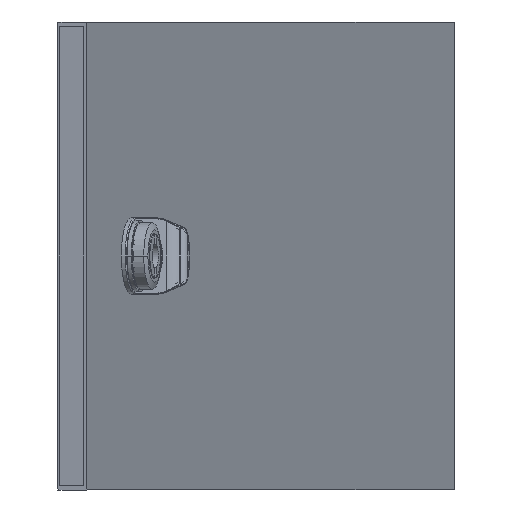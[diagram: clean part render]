
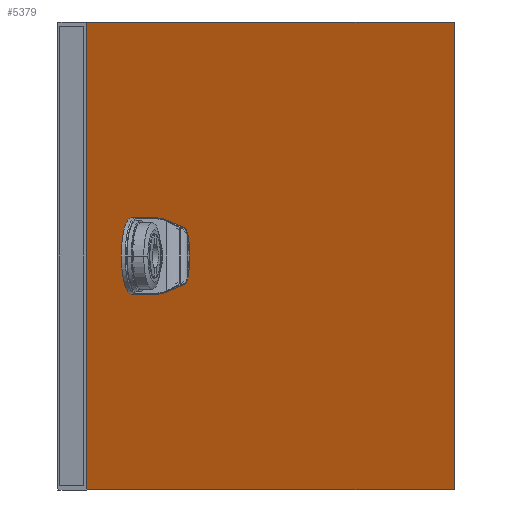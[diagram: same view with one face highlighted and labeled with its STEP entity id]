
A CAD part, front view. The second image highlights one B-rep face of the part: STEP entity #5379.
In plain terms, the highlighted planar face has unit normal (0.966, -0.259, 0).
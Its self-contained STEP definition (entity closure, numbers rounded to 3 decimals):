
#112 = VERTEX_POINT ( 'NONE', #14574 ) ;
#150 = EDGE_CURVE ( 'NONE', #4712, #3056, #266, .T. ) ;
#266 = LINE ( 'NONE', #2447, #12394 ) ;
#370 = DIRECTION ( 'NONE',  ( 0.259, 0.966, 0. ) ) ;
#566 = DIRECTION ( 'NONE',  ( 0., 0., -1. ) ) ;
#603 = EDGE_CURVE ( 'NONE', #5933, #1547, #1140, .T. ) ;
#709 = AXIS2_PLACEMENT_3D ( 'NONE', #12910, #1250, #13973 ) ;
#935 = AXIS2_PLACEMENT_3D ( 'NONE', #11305, #2253, #4597 ) ;
#975 = EDGE_CURVE ( 'NONE', #2585, #4712, #3384, .T. ) ;
#982 = CARTESIAN_POINT ( 'NONE',  ( -141.504, -521.983, 9. ) ) ;
#997 = ORIENTED_EDGE ( 'NONE', *, *, #2766, .T. ) ;
#1077 = CARTESIAN_POINT ( 'NONE',  ( -163.225, -603.127, 25. ) ) ;
#1140 = LINE ( 'NONE', #3481, #6134 ) ;
#1223 = CARTESIAN_POINT ( 'NONE',  ( -141.504, -521.983, 41. ) ) ;
#1250 = DIRECTION ( 'NONE',  ( -0.966, 0.259, 0. ) ) ;
#1505 = VERTEX_POINT ( 'NONE', #8541 ) ;
#1531 = EDGE_CURVE ( 'NONE', #8182, #6910, #3814, .T. ) ;
#1547 = VERTEX_POINT ( 'NONE', #1623 ) ;
#1623 = CARTESIAN_POINT ( 'NONE',  ( -144.607, -533.575, 9. ) ) ;
#2000 = EDGE_CURVE ( 'NONE', #3436, #2585, #8828, .T. ) ;
#2253 = DIRECTION ( 'NONE',  ( 0.966, -0.259, 0. ) ) ;
#2333 = LINE ( 'NONE', #9332, #3875 ) ;
#2447 = CARTESIAN_POINT ( 'NONE',  ( -9.372, -28.362, 25. ) ) ;
#2492 = DIRECTION ( 'NONE',  ( -0.966, 0.259, 0. ) ) ;
#2585 = VERTEX_POINT ( 'NONE', #13375 ) ;
#2766 = EDGE_CURVE ( 'NONE', #9929, #5933, #5991, .T. ) ;
#2821 = ORIENTED_EDGE ( 'NONE', *, *, #975, .T. ) ;
#2859 = CIRCLE ( 'NONE', #9335, 16. ) ;
#2950 = ORIENTED_EDGE ( 'NONE', *, *, #2000, .T. ) ;
#3056 = VERTEX_POINT ( 'NONE', #4476 ) ;
#3236 = ORIENTED_EDGE ( 'NONE', *, *, #7031, .T. ) ;
#3384 = LINE ( 'NONE', #6616, #3981 ) ;
#3418 = CARTESIAN_POINT ( 'NONE',  ( -144.607, -533.575, 41. ) ) ;
#3436 = VERTEX_POINT ( 'NONE', #5078 ) ;
#3481 = CARTESIAN_POINT ( 'NONE',  ( -148.744, -549.031, 9. ) ) ;
#3490 = CARTESIAN_POINT ( 'NONE',  ( -140.211, -517.153, 41. ) ) ;
#3495 = DIRECTION ( 'NONE',  ( 0., 0., 1. ) ) ;
#3617 = EDGE_CURVE ( 'NONE', #3056, #3436, #2333, .T. ) ;
#3656 = DIRECTION ( 'NONE',  ( 0., 0., -1. ) ) ;
#3761 = CARTESIAN_POINT ( 'NONE',  ( -148.744, -549.031, 41. ) ) ;
#3814 = CIRCLE ( 'NONE', #13432, 16. ) ;
#3875 = VECTOR ( 'NONE', #12591, 1000. ) ;
#3981 = VECTOR ( 'NONE', #13760, 1000. ) ;
#4102 = FACE_BOUND ( 'NONE', #9647, .T. ) ;
#4411 = ORIENTED_EDGE ( 'NONE', *, *, #12123, .T. ) ;
#4476 = CARTESIAN_POINT ( 'NONE',  ( -9.372, -28.362, 123. ) ) ;
#4597 = DIRECTION ( 'NONE',  ( 0., 0., 1. ) ) ;
#4604 = ORIENTED_EDGE ( 'NONE', *, *, #150, .T. ) ;
#4712 = VERTEX_POINT ( 'NONE', #11173 ) ;
#4809 = VECTOR ( 'NONE', #3656, 1000. ) ;
#5078 = CARTESIAN_POINT ( 'NONE',  ( -163.225, -603.127, 123. ) ) ;
#5226 = ORIENTED_EDGE ( 'NONE', *, *, #6770, .T. ) ;
#5379 = ADVANCED_FACE ( 'NONE', ( #10027, #4102 ), #6638, .T. ) ;
#5776 = VECTOR ( 'NONE', #370, 1000. ) ;
#5933 = VERTEX_POINT ( 'NONE', #982 ) ;
#5939 = EDGE_CURVE ( 'NONE', #9929, #1505, #8624, .T. ) ;
#5991 = CIRCLE ( 'NONE', #709, 16. ) ;
#6134 = VECTOR ( 'NONE', #11619, 1000. ) ;
#6616 = CARTESIAN_POINT ( 'NONE',  ( -86.298, -315.744, -73. ) ) ;
#6638 = PLANE ( 'NONE',  #6689 ) ;
#6689 = AXIS2_PLACEMENT_3D ( 'NONE', #12441, #12225, #11240 ) ;
#6719 = ORIENTED_EDGE ( 'NONE', *, *, #603, .T. ) ;
#6770 = EDGE_CURVE ( 'NONE', #112, #1505, #13802, .T. ) ;
#6910 = VERTEX_POINT ( 'NONE', #12797 ) ;
#7031 = EDGE_CURVE ( 'NONE', #7971, #8182, #14067, .T. ) ;
#7077 = DIRECTION ( 'NONE',  ( 0., 0., -1. ) ) ;
#7268 = ORIENTED_EDGE ( 'NONE', *, *, #5939, .F. ) ;
#7849 = CARTESIAN_POINT ( 'NONE',  ( -140.401, -517.862, 9.579 ) ) ;
#7971 = VERTEX_POINT ( 'NONE', #3418 ) ;
#8038 = ORIENTED_EDGE ( 'NONE', *, *, #12112, .F. ) ;
#8182 = VERTEX_POINT ( 'NONE', #1223 ) ;
#8447 = CARTESIAN_POINT ( 'NONE',  ( -140.47, -518.119, 39.457 ) ) ;
#8541 = CARTESIAN_POINT ( 'NONE',  ( -140.211, -517.153, 10.543 ) ) ;
#8624 = CIRCLE ( 'NONE', #935, 1. ) ;
#8714 = EDGE_LOOP ( 'NONE', ( #4604, #10740, #2950, #2821 ) ) ;
#8828 = LINE ( 'NONE', #1077, #14875 ) ;
#9332 = CARTESIAN_POINT ( 'NONE',  ( -86.298, -315.744, 123. ) ) ;
#9335 = AXIS2_PLACEMENT_3D ( 'NONE', #13851, #2492, #7077 ) ;
#9566 = DIRECTION ( 'NONE',  ( 0.966, -0.259, 0. ) ) ;
#9647 = EDGE_LOOP ( 'NONE', ( #5226, #7268, #997, #6719, #4411, #3236, #9997, #8038 ) ) ;
#9929 = VERTEX_POINT ( 'NONE', #7849 ) ;
#9997 = ORIENTED_EDGE ( 'NONE', *, *, #1531, .T. ) ;
#10027 = FACE_OUTER_BOUND ( 'NONE', #8714, .T. ) ;
#10740 = ORIENTED_EDGE ( 'NONE', *, *, #3617, .T. ) ;
#10894 = DIRECTION ( 'NONE',  ( -0.966, 0.259, 0. ) ) ;
#11173 = CARTESIAN_POINT ( 'NONE',  ( -9.372, -28.362, -73. ) ) ;
#11240 = DIRECTION ( 'NONE',  ( 0., 0., -1. ) ) ;
#11305 = CARTESIAN_POINT ( 'NONE',  ( -140.47, -518.119, 10.543 ) ) ;
#11619 = DIRECTION ( 'NONE',  ( -0.259, -0.966, 0. ) ) ;
#12021 = CARTESIAN_POINT ( 'NONE',  ( -141.504, -521.983, 25. ) ) ;
#12112 = EDGE_CURVE ( 'NONE', #112, #6910, #12954, .T. ) ;
#12123 = EDGE_CURVE ( 'NONE', #1547, #7971, #2859, .T. ) ;
#12225 = DIRECTION ( 'NONE',  ( 0.966, -0.259, 0. ) ) ;
#12323 = DIRECTION ( 'NONE',  ( 0., 0., -1. ) ) ;
#12394 = VECTOR ( 'NONE', #3495, 1000. ) ;
#12441 = CARTESIAN_POINT ( 'NONE',  ( -103.494, -379.983, 904. ) ) ;
#12591 = DIRECTION ( 'NONE',  ( -0.259, -0.966, 0. ) ) ;
#12797 = CARTESIAN_POINT ( 'NONE',  ( -140.401, -517.862, 40.42 ) ) ;
#12809 = DIRECTION ( 'NONE',  ( 0., 0., -1. ) ) ;
#12910 = CARTESIAN_POINT ( 'NONE',  ( -141.504, -521.983, 25. ) ) ;
#12954 = CIRCLE ( 'NONE', #13428, 1. ) ;
#13375 = CARTESIAN_POINT ( 'NONE',  ( -163.225, -603.127, -73. ) ) ;
#13428 = AXIS2_PLACEMENT_3D ( 'NONE', #8447, #9566, #12809 ) ;
#13432 = AXIS2_PLACEMENT_3D ( 'NONE', #12021, #10894, #566 ) ;
#13760 = DIRECTION ( 'NONE',  ( 0.259, 0.966, 0. ) ) ;
#13802 = LINE ( 'NONE', #3490, #4809 ) ;
#13851 = CARTESIAN_POINT ( 'NONE',  ( -144.607, -533.575, 25. ) ) ;
#13973 = DIRECTION ( 'NONE',  ( 0., 0., -1. ) ) ;
#14067 = LINE ( 'NONE', #3761, #5776 ) ;
#14574 = CARTESIAN_POINT ( 'NONE',  ( -140.211, -517.153, 39.457 ) ) ;
#14875 = VECTOR ( 'NONE', #12323, 1000. ) ;
